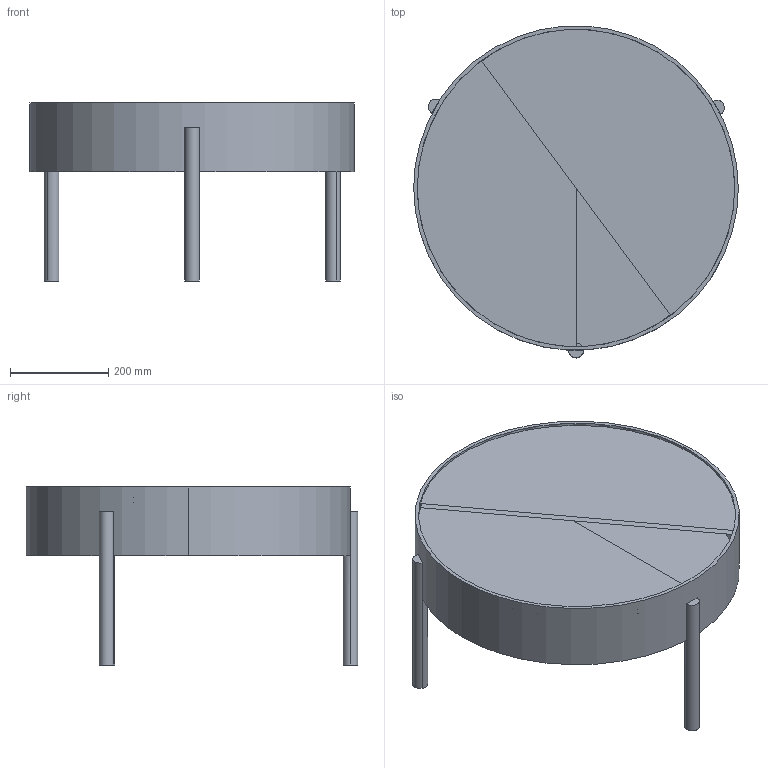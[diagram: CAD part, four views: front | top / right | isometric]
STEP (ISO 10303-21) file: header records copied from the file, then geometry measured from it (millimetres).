
FILE_DESCRIPTION(/* description */ (''),/* implementation_level */ '2;1');
FILE_NAME(/* name */ 'Arc coffee table large',/* time_stamp */ '2019-09-18T14:55:05+02:00',/* author */ (''),/* organization */ (''),/* preprocessor_version */ 'ST-DEVELOPER v15',/* originating_system */ '',/* authorisation */ '');
FILE_SCHEMA (('AUTOMOTIVE_DESIGN'));
Length unit declared in the file: millimetre
Products named in the file (1): Document
Bounding box: 660.02 x 674.53 x 361.99 mm (x, y, z)
Volume: 7770738.1 mm3; surface area: 2698135.8 mm2
Topology: 5 solids, 7 shells, 42 faces, 86 edges, 61 vertices
Faces by surface type: bspline 22, plane 20
Entity records: 1278 total; most frequent: CARTESIAN_POINT 651, ORIENTED_EDGE 154, EDGE_CURVE 81, VERTEX_POINT 54, EDGE_LOOP 45, ADVANCED_FACE 42, FACE_OUTER_BOUND 42, DIRECTION 28
